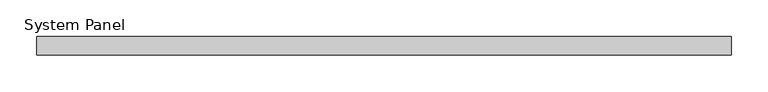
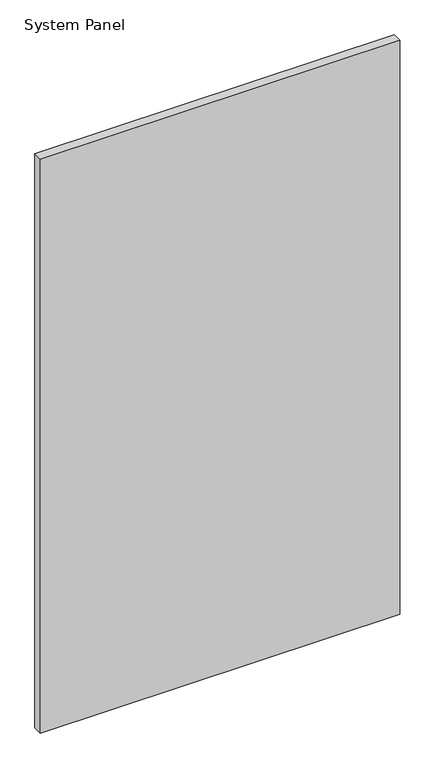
"""IFC4 building model written with IfcOpenShell, lengths in millimetres: plate geometry, System Panel : Spandral Panel."""

from ifc_helpers import new_model, si_unit, origin, origin_with_axes, place, context, project, spatial, polyline, outline, extrude, source, transform, mapped, element, save


def system_panel_16aabe40(model_context):
    return source(origin(), model_context, "Body", "SweptSolid", [
        extrude(outline(polyline([(473.86875, 19.05), (-473.86875, 19.05), (-473.86875, 44.45), (473.86875, 44.45), (473.86875, 19.05)])), origin_with_axes(), (0.0, 0.0, 1.0), 1600.2),
    ])


if __name__ == "__main__":
    model = new_model("IFC4")
    model_context = context("Model", 3, world=origin())
    ifc_project = project(units=[si_unit("LENGTHUNIT", "METRE", prefix="MILLI")], contexts=[model_context])
    site = spatial("IfcSite", under=ifc_project)
    building = spatial("IfcBuilding", under=site)
    placement = place(None, origin())
    system_panel_shape = system_panel_16aabe40(model_context)
    element("IfcPlate", 1, ObjectType="System Panel : Spandral Panel", at=placement, inside=building, context=model_context, shape_type="MappedRepresentation", body=[
        mapped(system_panel_shape, transform((0.0, 0.0, 0.0), x_axis=(1.0, 0.0, 0.0), y_axis=(0.0, 1.0, 0.0), z_axis=(0.0, 0.0, 1.0))),
    ])
    save(model, "model.ifc")
